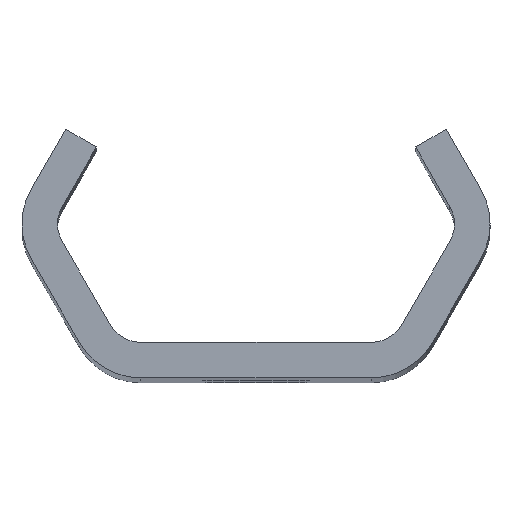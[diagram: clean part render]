
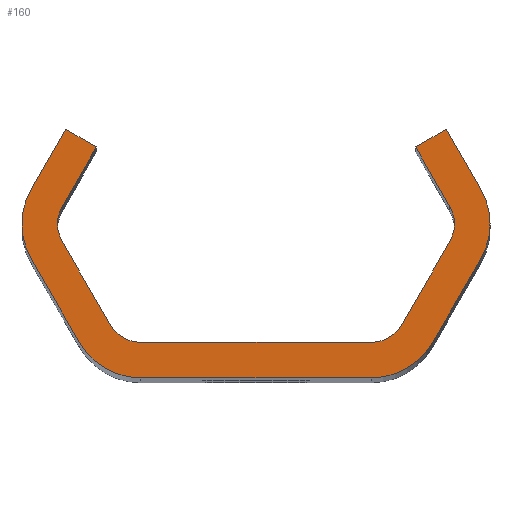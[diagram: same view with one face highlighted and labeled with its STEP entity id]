
A CAD part, top view. The second image highlights one B-rep face of the part: STEP entity #160.
In plain terms, the highlighted planar face has unit normal (0, 0, 1).
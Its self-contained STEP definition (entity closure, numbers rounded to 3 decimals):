
#160=ADVANCED_FACE('NONE',(#391),#392,.F.);
#391=FACE_OUTER_BOUND('',#1027,.T.);
#392=PLANE('',#1028);
#1027=EDGE_LOOP('',(#1996,#1997,#1998,#1999,#2000,#2001,#2002,#2003,#2004,#2005,#2006,#2007,#2008,#2009,#2010,#2011,#2012,#2013,#2014,#2015,#2016,#2017,#2018,#2019));
#1028=AXIS2_PLACEMENT_3D('',#2020,#2021,#2022);
#1996=ORIENTED_EDGE('',*,*,#2701,.T.);
#1997=ORIENTED_EDGE('',*,*,#2715,.T.);
#1998=ORIENTED_EDGE('',*,*,#2615,.T.);
#1999=ORIENTED_EDGE('',*,*,#2703,.T.);
#2000=ORIENTED_EDGE('',*,*,#2716,.T.);
#2001=ORIENTED_EDGE('',*,*,#2707,.T.);
#2002=ORIENTED_EDGE('',*,*,#2717,.T.);
#2003=ORIENTED_EDGE('',*,*,#2622,.T.);
#2004=ORIENTED_EDGE('',*,*,#2718,.T.);
#2005=ORIENTED_EDGE('',*,*,#2573,.T.);
#2006=ORIENTED_EDGE('',*,*,#2625,.T.);
#2007=ORIENTED_EDGE('',*,*,#2631,.T.);
#2008=ORIENTED_EDGE('',*,*,#2634,.T.);
#2009=ORIENTED_EDGE('',*,*,#2612,.T.);
#2010=ORIENTED_EDGE('',*,*,#2719,.T.);
#2011=ORIENTED_EDGE('',*,*,#2636,.T.);
#2012=ORIENTED_EDGE('',*,*,#2720,.T.);
#2013=ORIENTED_EDGE('',*,*,#2643,.T.);
#2014=ORIENTED_EDGE('',*,*,#2721,.T.);
#2015=ORIENTED_EDGE('',*,*,#2688,.T.);
#2016=ORIENTED_EDGE('',*,*,#2722,.T.);
#2017=ORIENTED_EDGE('',*,*,#2568,.T.);
#2018=ORIENTED_EDGE('',*,*,#2691,.T.);
#2019=ORIENTED_EDGE('',*,*,#2697,.T.);
#2020=CARTESIAN_POINT('',(0.0,0.0,240.0));
#2021=DIRECTION('',(0.0,0.0,-1.0));
#2022=DIRECTION('',(0.0,-1.0,0.0));
#2568=EDGE_CURVE('NONE',#2890,#2894,#2896,.T.);
#2573=EDGE_CURVE('NONE',#2899,#2903,#2905,.T.);
#2612=EDGE_CURVE('NONE',#2975,#2973,#2976,.T.);
#2615=EDGE_CURVE('NONE',#2979,#2980,#2981,.T.);
#2622=EDGE_CURVE('NONE',#2993,#2991,#2994,.T.);
#2625=EDGE_CURVE('NONE',#2903,#2997,#2998,.T.);
#2631=EDGE_CURVE('NONE',#2997,#3005,#3007,.T.);
#2634=EDGE_CURVE('NONE',#3005,#2975,#3010,.T.);
#2636=EDGE_CURVE('NONE',#3012,#3013,#3014,.T.);
#2643=EDGE_CURVE('NONE',#3026,#3024,#3027,.T.);
#2688=EDGE_CURVE('NONE',#3110,#3108,#3111,.T.);
#2691=EDGE_CURVE('NONE',#2894,#3114,#3115,.T.);
#2697=EDGE_CURVE('NONE',#3114,#3122,#3124,.T.);
#2701=EDGE_CURVE('NONE',#3122,#3128,#3130,.T.);
#2703=EDGE_CURVE('NONE',#2980,#3132,#3133,.T.);
#2707=EDGE_CURVE('NONE',#3138,#3139,#3140,.T.);
#2715=EDGE_CURVE('NONE',#3128,#2979,#3150,.T.);
#2716=EDGE_CURVE('NONE',#3132,#3138,#3151,.T.);
#2717=EDGE_CURVE('NONE',#3139,#2993,#3152,.T.);
#2718=EDGE_CURVE('NONE',#2991,#2899,#3153,.T.);
#2719=EDGE_CURVE('NONE',#2973,#3012,#3154,.T.);
#2720=EDGE_CURVE('NONE',#3013,#3026,#3155,.T.);
#2721=EDGE_CURVE('NONE',#3024,#3110,#3156,.T.);
#2722=EDGE_CURVE('NONE',#3108,#2890,#3157,.T.);
#2890=VERTEX_POINT('',#3370);
#2894=VERTEX_POINT('NONE',#3375);
#2896=CIRCLE('',#3378,3.0);
#2899=VERTEX_POINT('',#3381);
#2903=VERTEX_POINT('NONE',#3386);
#2905=CIRCLE('',#3389,6.0);
#2973=VERTEX_POINT('NONE',#3813);
#2975=VERTEX_POINT('NONE',#3816);
#2976=CIRCLE('',#3817,3.0);
#2979=VERTEX_POINT('NONE',#3821);
#2980=VERTEX_POINT('NONE',#3822);
#2981=CIRCLE('',#3823,6.0);
#2991=VERTEX_POINT('NONE',#3836);
#2993=VERTEX_POINT('NONE',#3839);
#2994=LINE('',#3840,#3841);
#2997=VERTEX_POINT('NONE',#3845);
#2998=LINE('',#3846,#3847);
#3005=VERTEX_POINT('NONE',#3857);
#3007=LINE('',#3860,#3861);
#3010=LINE('',#3865,#3866);
#3012=VERTEX_POINT('NONE',#3868);
#3013=VERTEX_POINT('NONE',#3869);
#3014=LINE('',#3870,#3871);
#3024=VERTEX_POINT('NONE',#3885);
#3026=VERTEX_POINT('NONE',#3888);
#3027=LINE('',#3889,#3890);
#3108=VERTEX_POINT('NONE',#4173);
#3110=VERTEX_POINT('NONE',#4176);
#3111=LINE('',#4177,#4178);
#3114=VERTEX_POINT('NONE',#4182);
#3115=LINE('',#4183,#4184);
#3122=VERTEX_POINT('NONE',#4194);
#3124=LINE('',#4197,#4198);
#3128=VERTEX_POINT('NONE',#4203);
#3130=LINE('',#4206,#4207);
#3132=VERTEX_POINT('NONE',#4209);
#3133=LINE('',#4210,#4211);
#3138=VERTEX_POINT('NONE',#4218);
#3139=VERTEX_POINT('NONE',#4219);
#3140=LINE('',#4220,#4221);
#3150=CIRCLE('',#4234,6.0);
#3151=CIRCLE('',#4235,6.0);
#3152=CIRCLE('',#4236,6.0);
#3153=CIRCLE('',#4237,6.0);
#3154=CIRCLE('',#4238,3.0);
#3155=CIRCLE('',#4239,3.0);
#3156=CIRCLE('',#4240,3.0);
#3157=CIRCLE('',#4241,3.0);
#3370=CARTESIAN_POINT('',(-16.764,0.,240.0));
#3375=CARTESIAN_POINT('',(-16.362,1.5,240.0));
#3378=AXIS2_PLACEMENT_3D('',#4907,#4908,#4909);
#3381=CARTESIAN_POINT('',(19.764,0.,240.0));
#3386=CARTESIAN_POINT('',(18.96,3.,240.0));
#3389=AXIS2_PLACEMENT_3D('',#4915,#4916,#4917);
#3813=CARTESIAN_POINT('',(16.764,0.,240.0));
#3816=CARTESIAN_POINT('',(16.362,1.5,240.0));
#3817=AXIS2_PLACEMENT_3D('',#4954,#4955,#4956);
#3821=CARTESIAN_POINT('',(-19.764,0.,240.0));
#3822=CARTESIAN_POINT('',(-18.96,-3.,240.0));
#3823=AXIS2_PLACEMENT_3D('',#4958,#4959,#4960);
#3836=CARTESIAN_POINT('',(18.96,-3.,240.0));
#3839=CARTESIAN_POINT('',(14.919,-10.,240.0));
#3840=CARTESIAN_POINT('',(20.692,0.,240.0));
#3841=VECTOR('',#4968,1000.0);
#3845=CARTESIAN_POINT('',(16.074,8.,240.0));
#3846=CARTESIAN_POINT('',(16.074,8.,240.0));
#3847=VECTOR('',#4970,1000.0);
#3857=CARTESIAN_POINT('',(13.475,6.5,240.0));
#3860=CARTESIAN_POINT('',(13.475,6.5,240.0));
#3861=VECTOR('',#4975,1000.0);
#3865=CARTESIAN_POINT('',(17.228,0.,240.0));
#3866=VECTOR('',#4977,1000.0);
#3868=CARTESIAN_POINT('',(16.362,-1.5,240.0));
#3869=CARTESIAN_POINT('',(12.321,-8.5,240.0));
#3870=CARTESIAN_POINT('',(11.455,-10.0,240.0));
#3871=VECTOR('',#4978,1000.0);
#3885=CARTESIAN_POINT('',(-9.723,-10.0,240.0));
#3888=CARTESIAN_POINT('',(9.723,-10.0,240.0));
#3889=CARTESIAN_POINT('',(-11.455,-10.0,240.0));
#3890=VECTOR('',#4984,1000.0);
#4173=CARTESIAN_POINT('',(-16.362,-1.5,240.0));
#4176=CARTESIAN_POINT('',(-12.321,-8.5,240.0));
#4177=CARTESIAN_POINT('',(-17.228,0.,240.0));
#4178=VECTOR('',#5030,1000.0);
#4182=CARTESIAN_POINT('',(-13.475,6.5,240.0));
#4183=CARTESIAN_POINT('',(-13.475,6.5,240.0));
#4184=VECTOR('',#5032,1000.0);
#4194=CARTESIAN_POINT('',(-16.074,8.,240.0));
#4197=CARTESIAN_POINT('',(-13.475,6.5,240.0));
#4198=VECTOR('',#5037,1000.0);
#4203=CARTESIAN_POINT('',(-18.96,3.,240.0));
#4206=CARTESIAN_POINT('',(-16.074,8.,240.0));
#4207=VECTOR('',#5040,1000.0);
#4209=CARTESIAN_POINT('',(-14.919,-10.,240.0));
#4210=CARTESIAN_POINT('',(-20.692,0.,240.0));
#4211=VECTOR('',#5041,1000.0);
#4218=CARTESIAN_POINT('',(-9.723,-13.0,240.0));
#4219=CARTESIAN_POINT('',(9.723,-13.0,240.0));
#4220=CARTESIAN_POINT('',(-13.187,-13.0,240.0));
#4221=VECTOR('',#5044,1000.0);
#4234=AXIS2_PLACEMENT_3D('',#5057,#5058,#5059);
#4235=AXIS2_PLACEMENT_3D('',#5060,#5061,#5062);
#4236=AXIS2_PLACEMENT_3D('',#5063,#5064,#5065);
#4237=AXIS2_PLACEMENT_3D('',#5066,#5067,#5068);
#4238=AXIS2_PLACEMENT_3D('',#5069,#5070,#5071);
#4239=AXIS2_PLACEMENT_3D('',#5072,#5073,#5074);
#4240=AXIS2_PLACEMENT_3D('',#5075,#5076,#5077);
#4241=AXIS2_PLACEMENT_3D('',#5078,#5079,#5080);
#4907=CARTESIAN_POINT('',(-13.764,0.,240.0));
#4908=DIRECTION('',(0.0,0.0,-1.0));
#4909=DIRECTION('',(-1.0,0.0,0.0));
#4915=CARTESIAN_POINT('',(13.764,0.,240.0));
#4916=DIRECTION('',(0.0,0.0,1.0));
#4917=DIRECTION('',(-1.0,0.0,0.0));
#4954=CARTESIAN_POINT('',(13.764,0.,240.0));
#4955=DIRECTION('',(0.0,0.0,-1.0));
#4956=DIRECTION('',(-1.0,0.0,0.0));
#4958=CARTESIAN_POINT('',(-13.764,0.,240.0));
#4959=DIRECTION('',(0.0,0.0,1.0));
#4960=DIRECTION('',(-1.0,0.0,0.0));
#4968=DIRECTION('',(0.5,0.866,-0.0));
#4970=DIRECTION('',(-0.5,0.866,-0.0));
#4975=DIRECTION('',(-0.866,-0.5,-0.0));
#4977=DIRECTION('',(0.5,-0.866,-0.0));
#4978=DIRECTION('',(-0.5,-0.866,-0.0));
#4984=DIRECTION('',(-1.0,0.,-0.0));
#5030=DIRECTION('',(-0.5,0.866,-0.0));
#5032=DIRECTION('',(0.5,0.866,-0.0));
#5037=DIRECTION('',(-0.866,0.5,0.0));
#5040=DIRECTION('',(-0.5,-0.866,0.0));
#5041=DIRECTION('',(0.5,-0.866,0.0));
#5044=DIRECTION('',(1.0,0.0,0.0));
#5057=CARTESIAN_POINT('',(-13.764,0.,240.0));
#5058=DIRECTION('',(0.0,0.0,1.0));
#5059=DIRECTION('',(-1.0,0.0,0.0));
#5060=CARTESIAN_POINT('',(-9.723,-7.0,240.0));
#5061=DIRECTION('',(0.0,0.0,1.0));
#5062=DIRECTION('',(-1.0,0.0,0.0));
#5063=CARTESIAN_POINT('',(9.723,-7.0,240.0));
#5064=DIRECTION('',(0.0,0.0,1.0));
#5065=DIRECTION('',(-1.0,0.,0.0));
#5066=CARTESIAN_POINT('',(13.764,0.,240.0));
#5067=DIRECTION('',(0.0,0.0,1.0));
#5068=DIRECTION('',(-1.0,0.0,0.0));
#5069=CARTESIAN_POINT('',(13.764,0.,240.0));
#5070=DIRECTION('',(0.0,0.0,-1.0));
#5071=DIRECTION('',(-1.0,0.0,0.0));
#5072=CARTESIAN_POINT('',(9.723,-7.0,240.0));
#5073=DIRECTION('',(0.0,0.0,-1.0));
#5074=DIRECTION('',(-1.0,0.0,0.0));
#5075=CARTESIAN_POINT('',(-9.723,-7.0,240.0));
#5076=DIRECTION('',(0.0,0.0,-1.0));
#5077=DIRECTION('',(-1.0,0.0,0.0));
#5078=CARTESIAN_POINT('',(-13.764,0.,240.0));
#5079=DIRECTION('',(0.0,0.0,-1.0));
#5080=DIRECTION('',(-1.0,0.0,0.0));
